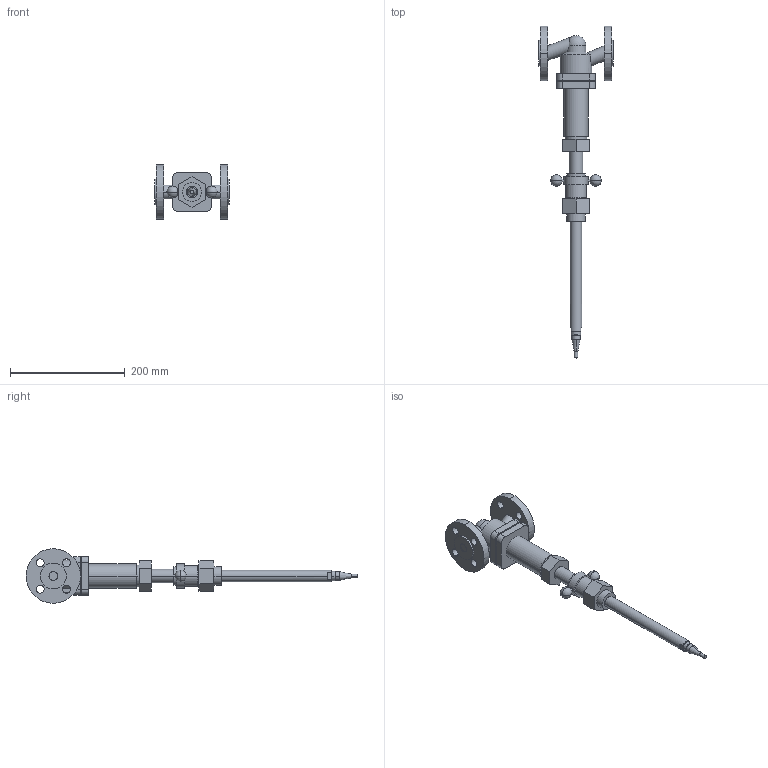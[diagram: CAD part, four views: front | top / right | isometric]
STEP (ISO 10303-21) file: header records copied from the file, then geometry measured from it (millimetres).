
FILE_DESCRIPTION(('CoCreate Modeling STEP Export'),'2;1');
FILE_NAME('c000001236.stp','2011-09-21T 9:26:34',(''),(''),'CoCreate Modeling STEP processor for AP214 (Solid Model)','CoCreate Modeling 17.0 01-Apr-2010 (C) Parametric Technology GmbH','');
FILE_SCHEMA(('AUTOMOTIVE_DESIGN { 1 0 10303 214 1 1 1 1 }'));
Length unit declared in the file: millimetre
Products named in the file (1): 1
Bounding box: 130 x 577.65 x 95 mm (x, y, z)
Volume: 782021.7 mm3; surface area: 120279 mm2
Topology: 1 solids, 1 shells, 152 faces, 377 edges, 242 vertices
Faces by surface type: cylinder 74, plane 64, sphere 10, cone 4
Entity records: 7144 total; most frequent: CARTESIAN_POINT 2608, ORIENTED_EDGE 734, DIRECTION 600, EDGE_CURVE 367, VERTEX_POINT 242, AXIS2_PLACEMENT_3D 211, EDGE_LOOP 193, VECTOR 178
